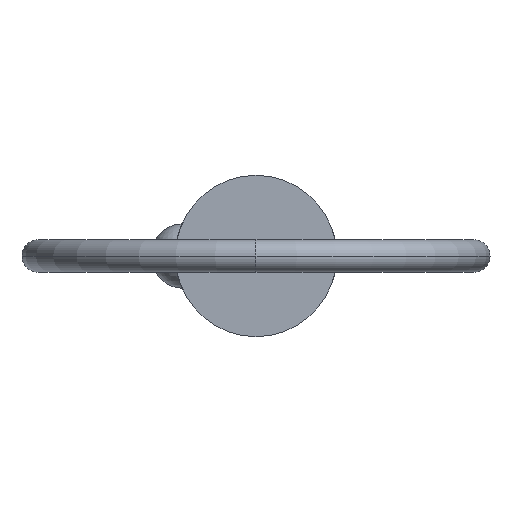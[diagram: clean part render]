
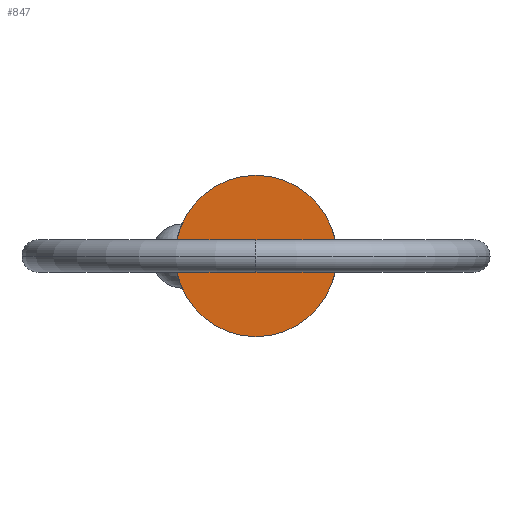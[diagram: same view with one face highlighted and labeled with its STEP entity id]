
A CAD part, left-side view. The second image highlights one B-rep face of the part: STEP entity #847.
In plain terms, the highlighted planar face has unit normal (-1, 0, 0).
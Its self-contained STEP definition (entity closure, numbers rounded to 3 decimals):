
#28 = CIRCLE ( 'NONE', #452, 4.7 ) ;
#43 = VERTEX_POINT ( 'NONE', #274 ) ;
#117 = CARTESIAN_POINT ( 'NONE',  ( 0., 0., 0. ) ) ;
#165 = EDGE_LOOP ( 'NONE', ( #850, #759 ) ) ;
#185 = EDGE_CURVE ( 'NONE', #43, #821, #28, .T. ) ;
#191 = DIRECTION ( 'NONE',  ( -1., 0., 0. ) ) ;
#242 = AXIS2_PLACEMENT_3D ( 'NONE', #117, #191, #838 ) ;
#274 = CARTESIAN_POINT ( 'NONE',  ( 0., 0., 4.7 ) ) ;
#313 = DIRECTION ( 'NONE',  ( 0., 0., -1. ) ) ;
#315 = PLANE ( 'NONE',  #242 ) ;
#342 = CARTESIAN_POINT ( 'NONE',  ( 0., 0., 0. ) ) ;
#452 = AXIS2_PLACEMENT_3D ( 'NONE', #342, #834, #705 ) ;
#515 = DIRECTION ( 'NONE',  ( 1., 0., 0. ) ) ;
#524 = CIRCLE ( 'NONE', #557, 4.7 ) ;
#527 = CARTESIAN_POINT ( 'NONE',  ( 0., 0., 0. ) ) ;
#557 = AXIS2_PLACEMENT_3D ( 'NONE', #527, #515, #313 ) ;
#698 = CARTESIAN_POINT ( 'NONE',  ( 0., 0., -4.7 ) ) ;
#705 = DIRECTION ( 'NONE',  ( 0., 0., -1. ) ) ;
#759 = ORIENTED_EDGE ( 'NONE', *, *, #185, .F. ) ;
#777 = FACE_OUTER_BOUND ( 'NONE', #165, .T. ) ;
#816 = EDGE_CURVE ( 'NONE', #821, #43, #524, .T. ) ;
#821 = VERTEX_POINT ( 'NONE', #698 ) ;
#834 = DIRECTION ( 'NONE',  ( 1., 0., 0. ) ) ;
#838 = DIRECTION ( 'NONE',  ( 0., 0., 1. ) ) ;
#847 = ADVANCED_FACE ( 'NONE', ( #777 ), #315, .T. ) ;
#850 = ORIENTED_EDGE ( 'NONE', *, *, #816, .F. ) ;
